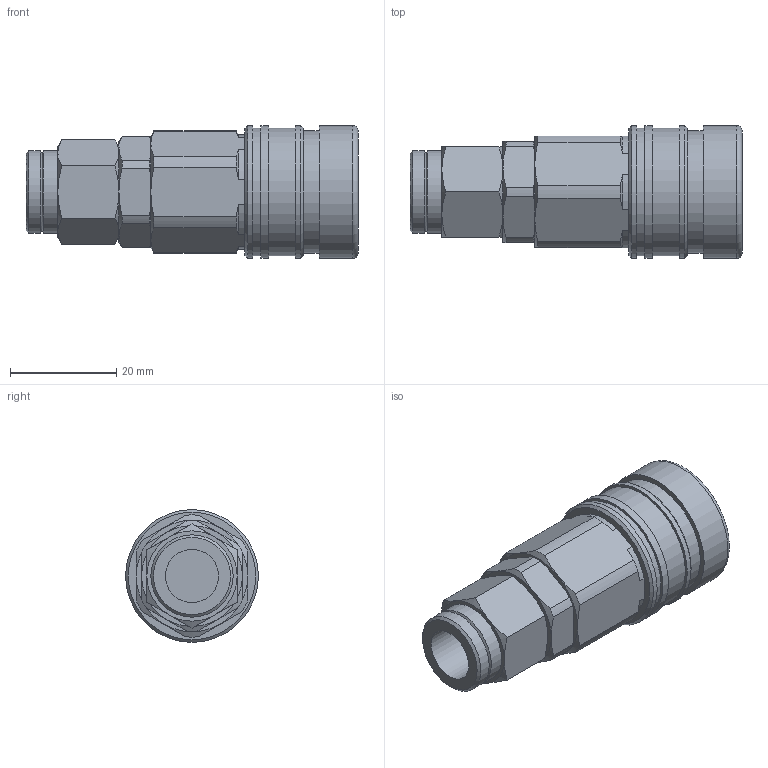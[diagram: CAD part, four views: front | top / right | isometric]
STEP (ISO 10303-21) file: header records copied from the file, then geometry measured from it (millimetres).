
FILE_DESCRIPTION(/* description */ (''),/* implementation_level */ '2;1');
FILE_NAME(/* name */ 'E:\2013年度版　3D-DATA\【17】 CHS-MP COUPLING\[01] CHS-MP COUPLING\[02] CHS-6.5H-MP.stp',/* time_stamp */ '2013-08-05T15:43:24+09:00',/* author */ ('takahashi-pc2'),/* organization */ (''),/* preprocessor_version */ 'ST-DEVELOPER v15.2',/* originating_system */ 'Autodesk Inventor 2014',/* authorisation */ '');
FILE_SCHEMA (('AUTOMOTIVE_DESIGN { 1 0 10303 214 3 1 1 }'));
Length unit declared in the file: millimetre
Products named in the file (1): [02] CHS-6.5H-MP
Bounding box: 62.5 x 25 x 25 mm (x, y, z)
Volume: 19032.8 mm3; surface area: 6583.2 mm2
Topology: 1 solids, 1 shells, 103 faces, 236 edges, 147 vertices
Faces by surface type: cone 41, plane 32, cylinder 29, torus 1
Full cylindrical faces by diameter (mm): 10 x1, 13.3 x1, 15.5 x2, 23 x1, 24 x2, 25 x4
Entity records: 2759 total; most frequent: CARTESIAN_POINT 614, DIRECTION 448, ORIENTED_EDGE 438, EDGE_CURVE 219, AXIS2_PLACEMENT_3D 197, VERTEX_POINT 147, EDGE_LOOP 132, ADVANCED_FACE 103
